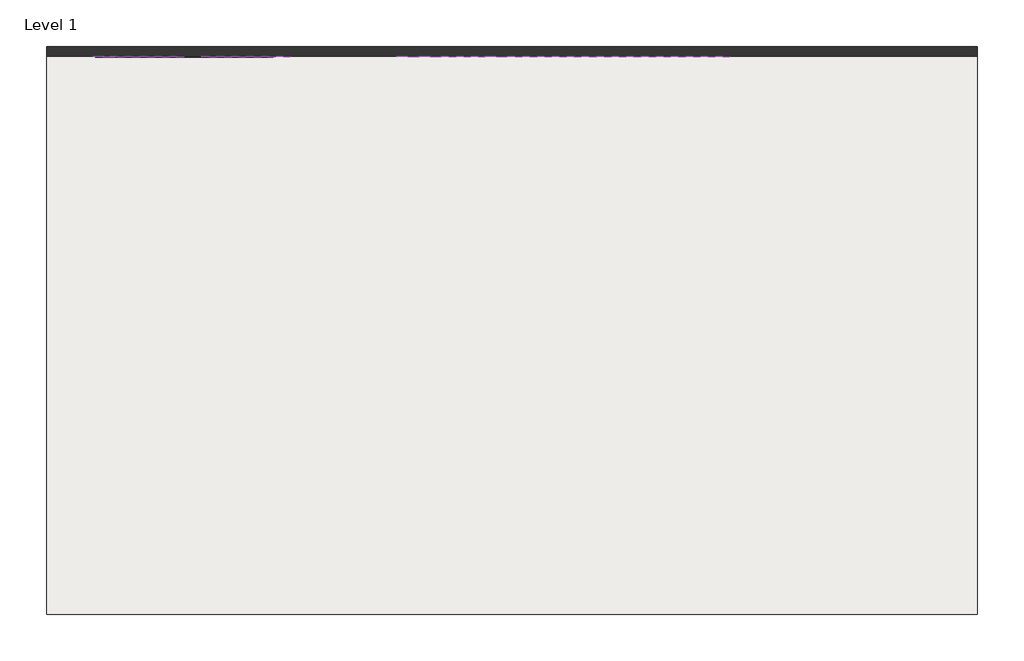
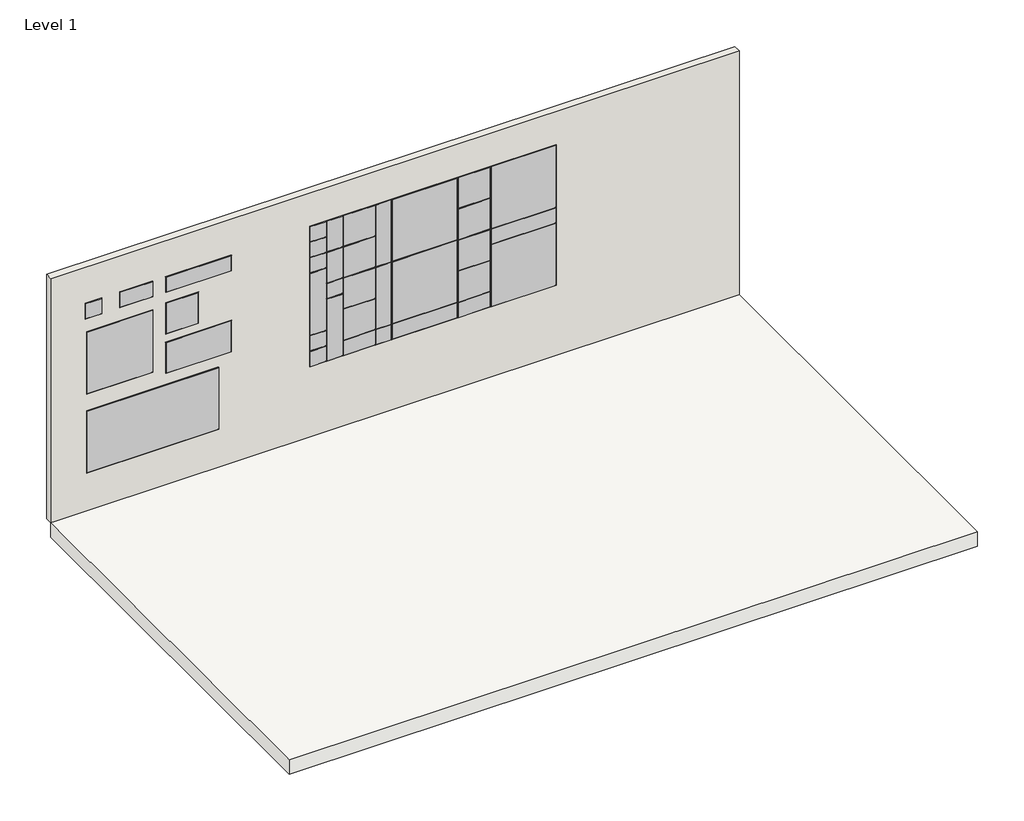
# One storey: 36 proxies, 1 slab, 1 wall.
"""IFC4 building model written with IfcOpenShell, lengths in millimetres."""

import ifcopenshell
import ifcopenshell.guid

model = None  # the IFC model being written
_history = None  # IfcOwnerHistory: only IFC2X3 demands one
_inside = {}  # id of a spatial element -> (the spatial element, [elements in it])
_under = {}  # id of a project, library or spatial element -> (it, [spatial elements below it])
_declared = {}  # id of a project -> (the project, [libraries it declares])
_typed = {}  # id of a type object -> (the type object, [elements of that type])
_made_of = {}  # id of a material, layer set ... -> (it, [elements and type objects made of it])


def new_model(schema):
    """Start an empty IFC model of exactly this schema.

    Asked for "IFC4X3", IfcOpenShell would pick the latest addendum, in which some entities
    have other attributes; the version numbers below select the first issue.
    IFC2X3 requires an IfcOwnerHistory on every rooted entity: one is made here for all.
    """
    global model, _history
    if schema == "IFC4X3":
        model = ifcopenshell.file(schema_version=(4, 3, 0, 0))
    else:
        model = ifcopenshell.file(schema=schema)
    _inside.clear()
    _under.clear()
    _declared.clear()
    _typed.clear()
    _made_of.clear()
    _history = None
    if model.schema == "IFC2X3":
        org = make("IfcOrganization", Name="unknown")
        user = make(
            "IfcPersonAndOrganization",
            ThePerson=make("IfcPerson", FamilyName="unknown"),
            TheOrganization=org,
        )
        app = make(
            "IfcApplication",
            ApplicationDeveloper=org,
            Version="unknown",
            ApplicationFullName="unknown",
            ApplicationIdentifier="unknown",
        )
        _history = make(
            "IfcOwnerHistory",
            OwningUser=user,
            OwningApplication=app,
            ChangeAction="ADDED",
            CreationDate=0,
        )
    return model


def make(cls, **values):
    """One entity of the class cls with the attributes given. An attribute that is None is left unset."""
    return model.create_entity(
        cls, **{name: value for name, value in values.items() if value is not None}
    )


def rooted(cls, **values):
    """An entity with a GlobalId (a new one), such as an element, a storey or a relation."""
    return make(cls, GlobalId=ifcopenshell.guid.new(), OwnerHistory=_history, **values)


def si_unit(unit_type, name, prefix=None):
    """IfcSIUnit, for example si_unit("LENGTHUNIT", "METRE", prefix="MILLI")."""
    return make("IfcSIUnit", UnitType=unit_type, Prefix=prefix, Name=name)


def assignment(units):
    """IfcUnitAssignment: the units of a project."""
    return None if units is None else make("IfcUnitAssignment", Units=units)


def point(xyz):
    """IfcCartesianPoint."""
    return None if xyz is None else make("IfcCartesianPoint", Coordinates=xyz)


def direction(xyz):
    """IfcDirection."""
    return None if xyz is None else make("IfcDirection", DirectionRatios=xyz)


def frame(location, z_axis=None, x_axis=None):
    """IfcAxis2Placement3D, a coordinate frame: its origin and axes. An axis left out is left unset."""
    return make(
        "IfcAxis2Placement3D",
        Location=point(location),
        Axis=direction(z_axis),
        RefDirection=direction(x_axis),
    )


def origin():
    """The frame at (0, 0, 0) with its axes left unset."""
    return frame((0.0, 0.0, 0.0))


def origin_with_axes():
    """The frame at (0, 0, 0) with the z axis (0, 0, 1) and the x axis (1, 0, 0) written out."""
    return frame((0.0, 0.0, 0.0), z_axis=(0.0, 0.0, 1.0), x_axis=(1.0, 0.0, 0.0))


def place(relative_to, where):
    """IfcLocalPlacement: puts the frame where relative to a parent placement (None: the world)."""
    return make(
        "IfcLocalPlacement", PlacementRelTo=relative_to, RelativePlacement=where
    )


def context(
    kind, dimensions, precision=None, world=None, true_north=None, identifier=None
):
    """IfcGeometricRepresentationContext, for example the 3D "Model" context."""
    return make(
        "IfcGeometricRepresentationContext",
        ContextIdentifier=identifier,
        ContextType=kind,
        CoordinateSpaceDimension=dimensions,
        Precision=precision,
        WorldCoordinateSystem=world,
        TrueNorth=true_north,
    )


def project(units=None, contexts=None):
    """IfcProject with its units and contexts."""
    return rooted(
        "IfcProject",
        Name="project",
        RepresentationContexts=contexts,
        UnitsInContext=assignment(units),
    )


def spatial(cls, under=None, at=None, **own):
    """A site, building, storey or space (cls), placed at a placement, below another one or the project."""
    s = rooted(cls, ObjectPlacement=at, **own)
    if under is not None:
        _under.setdefault(under.id(), (under, []))[1].append(s)
    return s


def polyline(points):
    """IfcPolyline through the points."""
    return make("IfcPolyline", Points=[point(p) for p in points])


def outline(outer, holes=None, kind="AREA"):
    """IfcArbitraryClosedProfileDef: a profile drawn as a closed curve; with holes, ...WithVoids."""
    if holes is None:
        return make("IfcArbitraryClosedProfileDef", ProfileType=kind, OuterCurve=outer)
    return make(
        "IfcArbitraryProfileDefWithVoids",
        ProfileType=kind,
        OuterCurve=outer,
        InnerCurves=holes,
    )


def extrude(swept, where, along, depth):
    """IfcExtrudedAreaSolid: the profile swept, set in the frame where, extruded along a direction by depth."""
    return make(
        "IfcExtrudedAreaSolid",
        SweptArea=swept,
        Position=where,
        ExtrudedDirection=direction(along),
        Depth=depth,
    )


def faces_of(points, faces, orient=None, outer=None):
    """IfcFace entities. A face is a list of loops; a loop is a list of indices into points, from 0.

    orient and outer hold one flag for each loop. By default every Orientation is true, the
    first loop of a face is its IfcFaceOuterBound and the others are IfcFaceBound.
    """
    made = []
    for i, loops in enumerate(faces):
        bounds = []
        for j, loop in enumerate(loops):
            is_outer = j == 0 if outer is None else outer[i][j]
            bounds.append(
                make(
                    "IfcFaceOuterBound" if is_outer else "IfcFaceBound",
                    Bound=make("IfcPolyLoop", Polygon=[points[k] for k in loop]),
                    Orientation=True if orient is None else orient[i][j],
                )
            )
        made.append(make("IfcFace", Bounds=bounds))
    return made


def faceted_brep(points, faces, orient=None, outer=None, voids=None):
    """IfcFacetedBrep: a solid bounded by flat faces; with voids (closed shells), ...WithVoids."""
    shared = [point(p) for p in points]
    hull = make("IfcClosedShell", CfsFaces=faces_of(shared, faces, orient, outer))
    if voids is None:
        return make("IfcFacetedBrep", Outer=hull)
    return make(
        "IfcFacetedBrepWithVoids",
        Outer=hull,
        Voids=[
            make(cls, CfsFaces=faces_of(shared, fs, o, b)) for cls, fs, o, b in voids
        ],
    )


def shape(context_of_items, identifier, shape_type, items):
    """IfcShapeRepresentation: the items that make up one representation, for example the "Body"."""
    return make(
        "IfcShapeRepresentation",
        ContextOfItems=context_of_items,
        RepresentationIdentifier=identifier,
        RepresentationType=shape_type,
        Items=items,
    )


def source(mapping_origin, context_of_items, identifier, shape_type, items):
    """IfcRepresentationMap: a shape defined once, which mapped items show again and again."""
    return make(
        "IfcRepresentationMap",
        MappingOrigin=mapping_origin,
        MappedRepresentation=shape(context_of_items, identifier, shape_type, items),
    )


def transform(
    local_origin,
    x_axis=None,
    y_axis=None,
    z_axis=None,
    scale=None,
    scale2=None,
    scale3=None,
    uniform=True,
):
    """IfcCartesianTransformationOperator3D, or its non-uniform kind. x_axis, y_axis, z_axis: its Axis1, 2, 3."""
    if uniform:
        return make(
            "IfcCartesianTransformationOperator3D",
            Axis1=direction(x_axis),
            Axis2=direction(y_axis),
            LocalOrigin=point(local_origin),
            Scale=scale,
            Axis3=direction(z_axis),
        )
    return make(
        "IfcCartesianTransformationOperator3DnonUniform",
        Axis1=direction(x_axis),
        Axis2=direction(y_axis),
        LocalOrigin=point(local_origin),
        Scale=scale,
        Axis3=direction(z_axis),
        Scale2=scale2,
        Scale3=scale3,
    )


def mapped(mapping_source, mapping_target):
    """IfcMappedItem: shows the shape of a source again, moved by a transform."""
    return make(
        "IfcMappedItem", MappingSource=mapping_source, MappingTarget=mapping_target
    )


def made_of(thing, what):
    """Note that an element or type object is made of a material, layer set ...; save() writes the relation."""
    if what is not None:
        _made_of.setdefault(what.id(), (what, []))[1].append(thing)
    return thing


def element(
    cls,
    number,
    at=None,
    inside=None,
    cuts=None,
    type_object=None,
    material=None,
    context=None,
    identifier="Body",
    shape_type=None,
    held_by="IfcProductDefinitionShape",
    body=None,
    shapes=None,
    **own,
):
    """One element of the class cls, such as IfcWall. Its Tag is "e" and its number.

    at: its placement. inside: the storey or other place that contains it. cuts: it is an
    opening in that element (IfcRelVoidsElement). A single representation is given by context,
    identifier, shape_type and body (its items); several are given by shapes. held_by: the class
    of the entity that holds the representations. save() writes the other relations.
    """
    e = rooted(cls, Tag="e%d" % number, ObjectPlacement=at, **own)
    if body is not None:
        shapes = [shape(context, identifier, shape_type, body)]
    if shapes is not None:
        e.Representation = make(held_by, Representations=shapes)
    if inside is not None:
        _inside.setdefault(inside.id(), (inside, []))[1].append(e)
    if cuts is not None:
        rooted(
            "IfcRelVoidsElement", RelatingBuildingElement=cuts, RelatedOpeningElement=e
        )
    if type_object is not None:
        _typed.setdefault(type_object.id(), (type_object, []))[1].append(e)
    return made_of(e, material)


def aggregate(whole, parts):
    """IfcRelAggregates: a whole, such as a stair, and the parts it consists of."""
    return rooted("IfcRelAggregates", RelatingObject=whole, RelatedObjects=parts)


def save(model, path):
    """Write the relations noted so far, then the file.

    IfcRelAggregates (storeys below a building ...), IfcRelContainedInSpatialStructure (elements
    in a storey), IfcRelDefinesByType, IfcRelAssociatesMaterial and IfcRelDeclares: one each for
    every whole, place, type object, material and project.
    """
    for whole, parts in _under.values():
        aggregate(whole, parts)
    for where, things in _inside.values():
        rooted(
            "IfcRelContainedInSpatialStructure",
            RelatedElements=things,
            RelatingStructure=where,
        )
    for kind, things in _typed.values():
        rooted("IfcRelDefinesByType", RelatedObjects=things, RelatingType=kind)
    for what, things in _made_of.values():
        rooted("IfcRelAssociatesMaterial", RelatedObjects=things, RelatingMaterial=what)
    for by, libraries in _declared.values():
        rooted("IfcRelDeclares", RelatingContext=by, RelatedDefinitions=libraries)
    model.write(path)


def proxy_bc3ac1bf(model_context):
    return source(origin(), model_context, "Body", "Brep", [
        faceted_brep([(699.3445313, -140.5445313, 12.0054687), (699.3445313, 140.5445312, 12.0054687), (418.2554688, 140.5445312, 12.0054687), (418.2554688, -140.5445313, 12.0054687), (704.85, 146.05, 0.0), (704.85, -146.05, 0.0), (412.75, -146.05, 0.0), (412.75, 146.05, 0.0), (412.75, 146.05, 6.5), (704.85, 146.05, 6.5), (412.75, -146.05, 6.5), (704.85, -146.05, 6.5)], [[[0, 1, 2, 3]], [[4, 5, 6, 7]], [[4, 7, 8, 9]], [[7, 6, 10, 8]], [[6, 5, 11, 10]], [[5, 4, 9, 11]], [[9, 1, 0, 11]], [[1, 9, 8, 2]], [[2, 8, 10, 3]], [[11, 0, 3, 10]]]),
    ])


def proxy_3ab9ab72(model_context):
    return source(origin(), model_context, "Body", "Brep", [
        faceted_brep([(699.3445313, 140.5445313, 12.0054687), (418.2554688, 140.5445313, 12.0054687), (418.2554688, -140.5445312, 12.0054687), (699.3445313, -140.5445312, 12.0054687), (704.85, -146.05, 0.0), (412.75, -146.05, 0.0), (412.75, 146.05, 0.0), (704.85, 146.05, 0.0), (704.85, -146.05, 6.5), (412.75, -146.05, 6.5), (412.75, 146.05, 6.5), (704.85, 146.05, 6.5)], [[[0, 1, 2, 3]], [[4, 5, 6, 7]], [[4, 8, 9, 5]], [[5, 9, 10, 6]], [[6, 10, 11, 7]], [[7, 11, 8, 4]], [[8, 11, 0, 3]], [[3, 2, 9, 8]], [[2, 1, 10, 9]], [[11, 10, 1, 0]]]),
    ])


def proxy_581fb320(model_context):
    return source(origin(), model_context, "Body", "Brep", [
        faceted_brep([(845.3945313, -140.5445313, 12.0054687), (845.3945313, 140.5445312, 12.0054687), (272.2054688, 140.5445312, 12.0054687), (272.2054688, -140.5445313, 12.0054687), (850.9, 146.05, 0.0), (850.9, -146.05, 0.0), (266.7, -146.05, 0.0), (266.7, 146.05, 0.0), (266.7, 146.05, 6.5), (850.9, 146.05, 6.5), (266.7, -146.05, 6.5), (850.9, -146.05, 6.5)], [[[0, 1, 2, 3]], [[4, 5, 6, 7]], [[4, 7, 8, 9]], [[7, 6, 10, 8]], [[6, 5, 11, 10]], [[5, 4, 9, 11]], [[9, 1, 0, 11]], [[1, 9, 8, 2]], [[2, 8, 10, 3]], [[11, 0, 3, 10]]]),
    ])


def proxy_46f4f60e(model_context):
    return source(origin(), model_context, "Body", "Brep", [
        faceted_brep([(845.3945313, 140.5445313, 12.0054687), (272.2054688, 140.5445313, 12.0054687), (272.2054688, -140.5445312, 12.0054687), (845.3945313, -140.5445312, 12.0054687), (850.9, -146.05, 0.0), (266.7, -146.05, 0.0), (266.7, 146.05, 0.0), (850.9, 146.05, 0.0), (850.9, -146.05, 6.5), (266.7, -146.05, 6.5), (266.7, 146.05, 6.5), (850.9, 146.05, 6.5)], [[[0, 1, 2, 3]], [[4, 5, 6, 7]], [[4, 8, 9, 5]], [[5, 9, 10, 6]], [[6, 10, 11, 7]], [[7, 11, 8, 4]], [[8, 11, 0, 3]], [[3, 2, 9, 8]], [[2, 1, 10, 9]], [[11, 10, 1, 0]]]),
    ])


def proxy_c236b629(model_context):
    return source(origin(), model_context, "Body", "Brep", [
        faceted_brep([(1137.4945313, -140.5445313, 12.0054687), (1137.4945313, 140.5445312, 12.0054687), (-19.8945312, 140.5445312, 12.0054687), (-19.8945312, -140.5445313, 12.0054687), (1143.0, 146.05, 0.0), (1143.0, -146.05, 0.0), (-25.4, -146.05, 0.0), (-25.4, 146.05, 0.0), (-25.4, 146.05, 6.5), (1143.0, 146.05, 6.5), (-25.4, -146.05, 6.5), (1143.0, -146.05, 6.5)], [[[0, 1, 2, 3]], [[4, 5, 6, 7]], [[4, 7, 8, 9]], [[7, 6, 10, 8]], [[6, 5, 11, 10]], [[5, 4, 9, 11]], [[9, 1, 0, 11]], [[1, 9, 8, 2]], [[2, 8, 10, 3]], [[11, 0, 3, 10]]]),
    ])


def proxy_cbdc0e8b(model_context):
    return source(origin(), model_context, "Body", "Brep", [
        faceted_brep([(845.3945313, -286.5945313, 12.0054687), (845.3945313, 286.5945312, 12.0054687), (272.2054688, 286.5945312, 12.0054687), (272.2054688, -286.5945313, 12.0054687), (850.9, 292.1, 0.0), (850.9, -292.1, 0.0), (266.7, -292.1, 0.0), (266.7, 292.1, 0.0), (266.7, 292.1, 6.5), (850.9, 292.1, 6.5), (266.7, -292.1, 6.5), (850.9, -292.1, 6.5)], [[[0, 1, 2, 3]], [[4, 5, 6, 7]], [[4, 7, 8, 9]], [[7, 6, 10, 8]], [[6, 5, 11, 10]], [[5, 4, 9, 11]], [[9, 1, 0, 11]], [[1, 9, 8, 2]], [[2, 8, 10, 3]], [[11, 0, 3, 10]]]),
    ])


def proxy_e55ecfb7(model_context):
    return source(origin(), model_context, "Body", "Brep", [
        faceted_brep([(845.3945313, 286.5945313, 12.0054687), (272.2054688, 286.5945313, 12.0054687), (272.2054688, -286.5945312, 12.0054687), (845.3945313, -286.5945312, 12.0054687), (850.9, -292.1, 0.0), (266.7, -292.1, 0.0), (266.7, 292.1, 0.0), (850.9, 292.1, 0.0), (850.9, -292.1, 6.5), (266.7, -292.1, 6.5), (266.7, 292.1, 6.5), (850.9, 292.1, 6.5)], [[[0, 1, 2, 3]], [[4, 5, 6, 7]], [[4, 8, 9, 5]], [[5, 9, 10, 6]], [[6, 10, 11, 7]], [[7, 11, 8, 4]], [[8, 11, 0, 3]], [[3, 2, 9, 8]], [[2, 1, 10, 9]], [[11, 10, 1, 0]]]),
    ])


def proxy_a09970d3(model_context):
    return source(origin(), model_context, "Body", "Brep", [
        faceted_brep([(1137.4945313, -286.5945313, 12.0054687), (1137.4945313, 286.5945312, 12.0054687), (-19.8945312, 286.5945312, 12.0054687), (-19.8945312, -286.5945313, 12.0054687), (1143.0, 292.1, 0.0), (1143.0, -292.1, 0.0), (-25.4, -292.1, 0.0), (-25.4, 292.1, 0.0), (-25.4, 292.1, 6.5), (1143.0, 292.1, 6.5), (-25.4, -292.1, 6.5), (1143.0, -292.1, 6.5)], [[[0, 1, 2, 3]], [[4, 5, 6, 7]], [[4, 7, 8, 9]], [[7, 6, 10, 8]], [[6, 5, 11, 10]], [[5, 4, 9, 11]], [[9, 1, 0, 11]], [[1, 9, 8, 2]], [[2, 8, 10, 3]], [[11, 0, 3, 10]]]),
    ])


def proxy_4511d3c0(model_context):
    return source(origin(), model_context, "Body", "Brep", [
        faceted_brep([(1137.4945313, -578.6945313, 12.0054687), (1137.4945313, 578.6945312, 12.0054687), (-19.8945312, 578.6945312, 12.0054687), (-19.8945312, -578.6945313, 12.0054687), (1143.0, 584.2, 0.0), (1143.0, -584.2, 0.0), (-25.4, -584.2, 0.0), (-25.4, 584.2, 0.0), (-25.4, 584.2, 6.5), (1143.0, 584.2, 6.5), (-25.4, -584.2, 6.5), (1143.0, -584.2, 6.5)], [[[0, 1, 2, 3]], [[4, 5, 6, 7]], [[4, 7, 8, 9]], [[7, 6, 10, 8]], [[6, 5, 11, 10]], [[5, 4, 9, 11]], [[9, 1, 0, 11]], [[1, 9, 8, 2]], [[2, 8, 10, 3]], [[11, 0, 3, 10]]]),
    ])


def proxy_51484835(model_context):
    return source(origin(), model_context, "Body", "Brep", [
        faceted_brep([(1137.4945313, 578.6945313, 12.0054687), (-19.8945312, 578.6945313, 12.0054687), (-19.8945312, -578.6945312, 12.0054687), (1137.4945313, -578.6945312, 12.0054687), (1143.0, -584.2, 0.0), (-25.4, -584.2, 0.0), (-25.4, 584.2, 0.0), (1143.0, 584.2, 0.0), (1143.0, -584.2, 6.5), (-25.4, -584.2, 6.5), (-25.4, 584.2, 6.5), (1143.0, 584.2, 6.5)], [[[0, 1, 2, 3]], [[4, 5, 6, 7]], [[4, 8, 9, 5]], [[5, 9, 10, 6]], [[6, 10, 11, 7]], [[7, 11, 8, 4]], [[8, 11, 0, 3]], [[3, 2, 9, 8]], [[2, 1, 10, 9]], [[11, 10, 1, 0]]]),
    ])


def proxy_796f25b3(model_context):
    return source(origin(), model_context, "Body", "Brep", [
        faceted_brep([(1721.6945313, -578.6945313, 12.0054687), (1721.6945313, 578.6945312, 12.0054687), (-604.0945312, 578.6945312, 12.0054687), (-604.0945312, -578.6945313, 12.0054687), (1727.2, 584.2, 0.0), (1727.2, -584.2, 0.0), (-609.6, -584.2, 0.0), (-609.6, 584.2, 0.0), (-609.6, 584.2, 6.5), (1727.2, 584.2, 6.5), (-609.6, -584.2, 6.5), (1727.2, -584.2, 6.5)], [[[0, 1, 2, 3]], [[4, 5, 6, 7]], [[4, 7, 8, 9]], [[7, 6, 10, 8]], [[6, 5, 11, 10]], [[5, 4, 9, 11]], [[9, 1, 0, 11]], [[1, 9, 8, 2]], [[2, 8, 10, 3]], [[11, 0, 3, 10]]]),
    ])


model = new_model("IFC4")

# Units and contexts
model_context = context("Model", 3, world=origin())
ifc_project = project(units=[si_unit("LENGTHUNIT", "METRE", prefix="MILLI")], contexts=[model_context])

# Site, building, storey
site = spatial("IfcSite", under=ifc_project)
building = spatial("IfcBuilding", under=site)
storey = spatial("IfcBuildingStorey", under=building, Name="Level 1", Elevation=0.0)

# Proxies
placement = place(None, origin())
proxy_shape = proxy_bc3ac1bf(model_context)
element("IfcBuildingElementProxy", 1, Name="Wall-Panel-Kirei-EchoPanel-Echotile_Sync : 11.5\" x 11.5\" Tile", ObjectType="Wall-Panel-Kirei-EchoPanel-Echotile_Sync : 11.5\" x 11.5\" Tile", at=placement, inside=storey, context=model_context, shape_type="MappedRepresentation", body=[
    mapped(proxy_shape, transform((-9937.9972578, 6040.5236992, 3192.5320415), x_axis=(0.0, 0.0, 1.0), y_axis=(-1.0, 0.0, 0.0), z_axis=(0.0, -1.0, 0.0))),
])
element("IfcBuildingElementProxy", 2, Name="Wall-Panel-Kirei-EchoPanel-Echotile_Sync : 11.5\" x 11.5\" Tile", ObjectType="Wall-Panel-Kirei-EchoPanel-Echotile_Sync : 11.5\" x 11.5\" Tile", at=placement, inside=storey, context=model_context, shape_type="MappedRepresentation", body=[
    mapped(proxy_shape, transform((-6521.6972578, 6040.5236992, 3802.1320416), x_axis=(1.0, 0.0, 0.0), y_axis=(0.0, 0.0, 1.0), z_axis=(0.0, -1.0, 0.0))),
])
element("IfcBuildingElementProxy", 3, Name="Wall-Panel-Kirei-EchoPanel-Echotile_Sync : 11.5\" x 11.5\" Tile", ObjectType="Wall-Panel-Kirei-EchoPanel-Echotile_Sync : 11.5\" x 11.5\" Tile", at=placement, inside=storey, context=model_context, shape_type="MappedRepresentation", body=[
    mapped(proxy_shape, transform((-6521.6972578, 6040.5236992, 3510.0320416), x_axis=(1.0, 0.0, 0.0), y_axis=(0.0, 0.0, 1.0), z_axis=(0.0, -1.0, 0.0))),
])
element("IfcBuildingElementProxy", 4, Name="Wall-Panel-Kirei-EchoPanel-Echotile_Sync : 11.5\" x 11.5\" Tile", ObjectType="Wall-Panel-Kirei-EchoPanel-Echotile_Sync : 11.5\" x 11.5\" Tile", at=placement, inside=storey, context=model_context, shape_type="MappedRepresentation", body=[
    mapped(proxy_shape, transform((-6521.6972578, 6040.5236992, 1757.4320416), x_axis=(1.0, 0.0, 0.0), y_axis=(0.0, 0.0, 1.0), z_axis=(0.0, -1.0, 0.0))),
])
element("IfcBuildingElementProxy", 5, Name="Wall-Panel-Kirei-EchoPanel-Echotile_Sync : 11.5\" x 11.5\" Tile", ObjectType="Wall-Panel-Kirei-EchoPanel-Echotile_Sync : 11.5\" x 11.5\" Tile", at=placement, inside=storey, context=model_context, shape_type="MappedRepresentation", body=[
    mapped(proxy_shape, transform((-6521.6972578, 6040.5236992, 1465.3320416), x_axis=(1.0, 0.0, 0.0), y_axis=(0.0, 0.0, 1.0), z_axis=(0.0, -1.0, 0.0))),
])
element("IfcBuildingElementProxy", 6, Name="Wall-Panel-Kirei-EchoPanel-Echotile_Sync : 11.5\" x 11.5\" Tile", ObjectType="Wall-Panel-Kirei-EchoPanel-Echotile_Sync : 11.5\" x 11.5\" Tile", at=placement, inside=storey, context=model_context, shape_type="MappedRepresentation", body=[
    mapped(proxy_shape, transform((-6229.5972578, 6040.5236992, 2633.7320416), x_axis=(1.0, 0.0, 0.0), y_axis=(0.0, 0.0, 1.0), z_axis=(0.0, -1.0, 0.0))),
])
element("IfcBuildingElementProxy", 7, Name="Wall-Panel-Kirei-EchoPanel-Echotile_Sync : 11.5\" x 11.5\" Tile", ObjectType="Wall-Panel-Kirei-EchoPanel-Echotile_Sync : 11.5\" x 11.5\" Tile", at=placement, inside=storey, context=model_context, shape_type="MappedRepresentation", body=[
    mapped(proxy_shape, transform((-5364.3081953, 6040.5236992, 1465.3320416), x_axis=(1.0, 0.0, 0.0), y_axis=(0.0, 0.0, 1.0), z_axis=(0.0, -1.0, 0.0))),
])
proxy_2_shape = proxy_3ab9ab72(model_context)
element("IfcBuildingElementProxy", 8, Name="Wall-Panel-Kirei-EchoPanel-Echotile_Sync : 11.5\" x 11.5\" Tile", ObjectType="Wall-Panel-Kirei-EchoPanel-Echotile_Sync : 11.5\" x 11.5\" Tile", at=placement, inside=storey, context=model_context, shape_type="MappedRepresentation", body=[
    mapped(proxy_2_shape, transform((-6521.6972578, 6040.5236992, 3217.9320416), x_axis=(1.0, 0.0, 0.0), y_axis=(0.0, 0.0, 1.0), z_axis=(0.0, -1.0, 0.0))),
])
proxy_3_shape = proxy_581fb320(model_context)
element("IfcBuildingElementProxy", 9, Name="Wall-Panel-Kirei-EchoPanel-Echotile_Sync : 11.5\" x 23\" Tile", ObjectType="Wall-Panel-Kirei-EchoPanel-Echotile_Sync : 11.5\" x 23\" Tile", at=placement, inside=storey, context=model_context, shape_type="MappedRepresentation", body=[
    mapped(proxy_3_shape, transform((-8623.5472578, 6040.5236992, 3751.3320415), x_axis=(-1.0, 0.0, 0.0), y_axis=(0.0, 0.0, -1.0), z_axis=(0.0, -1.0, 0.0))),
])
proxy_4_shape = proxy_46f4f60e(model_context)
element("IfcBuildingElementProxy", 10, Name="Wall-Panel-Kirei-EchoPanel-Echotile_Sync : 11.5\" x 23\" Tile", ObjectType="Wall-Panel-Kirei-EchoPanel-Echotile_Sync : 11.5\" x 23\" Tile", at=placement, inside=storey, context=model_context, shape_type="MappedRepresentation", body=[
    mapped(proxy_4_shape, transform((-5670.7972578, 6040.5236992, 4214.8820416), x_axis=(0.0, 0.0, -1.0), y_axis=(1.0, 0.0, 0.0), z_axis=(0.0, -1.0, 0.0))),
])
element("IfcBuildingElementProxy", 11, Name="Wall-Panel-Kirei-EchoPanel-Echotile_Sync : 11.5\" x 23\" Tile", ObjectType="Wall-Panel-Kirei-EchoPanel-Echotile_Sync : 11.5\" x 23\" Tile", at=placement, inside=storey, context=model_context, shape_type="MappedRepresentation", body=[
    mapped(proxy_3_shape, transform((-5670.7972578, 6040.5236992, 2513.0820416), x_axis=(0.0, 0.0, 1.0), y_axis=(-1.0, 0.0, 0.0), z_axis=(0.0, -1.0, 0.0))),
])
element("IfcBuildingElementProxy", 12, Name="Wall-Panel-Kirei-EchoPanel-Echotile_Sync : 11.5\" x 23\" Tile", ObjectType="Wall-Panel-Kirei-EchoPanel-Echotile_Sync : 11.5\" x 23\" Tile", at=placement, inside=storey, context=model_context, shape_type="MappedRepresentation", body=[
    mapped(proxy_3_shape, transform((-5791.4472578, 6040.5236992, 1465.3320416), x_axis=(1.0, 0.0, 0.0), y_axis=(0.0, 0.0, 1.0), z_axis=(0.0, -1.0, 0.0))),
])
element("IfcBuildingElementProxy", 13, Name="Wall-Panel-Kirei-EchoPanel-Echotile_Sync : 11.5\" x 23\" Tile", ObjectType="Wall-Panel-Kirei-EchoPanel-Echotile_Sync : 11.5\" x 23\" Tile", at=placement, inside=storey, context=model_context, shape_type="MappedRepresentation", body=[
    mapped(proxy_3_shape, transform((-3757.7581953, 6040.5236992, 1465.3320416), x_axis=(1.0, 0.0, 0.0), y_axis=(0.0, 0.0, 1.0), z_axis=(0.0, -1.0, 0.0))),
])
proxy_5_shape = proxy_c236b629(model_context)
element("IfcBuildingElementProxy", 14, Name="Wall-Panel-Kirei-EchoPanel-Echotile_Sync : 11.5\" x 46\" Tile", ObjectType="Wall-Panel-Kirei-EchoPanel-Echotile_Sync : 11.5\" x 46\" Tile", at=placement, inside=storey, context=model_context, shape_type="MappedRepresentation", body=[
    mapped(proxy_5_shape, transform((-8636.2472578, 6040.5236992, 3751.3320416), x_axis=(1.0, 0.0, 0.0), y_axis=(0.0, 0.0, 1.0), z_axis=(0.0, -1.0, 0.0))),
])
element("IfcBuildingElementProxy", 15, Name="Wall-Panel-Kirei-EchoPanel-Echotile_Sync : 11.5\" x 46\" Tile", ObjectType="Wall-Panel-Kirei-EchoPanel-Echotile_Sync : 11.5\" x 46\" Tile", at=placement, inside=storey, context=model_context, shape_type="MappedRepresentation", body=[
    mapped(proxy_5_shape, transform((-5962.8972578, 6040.5236992, 1928.8820416), x_axis=(0.0, 0.0, 1.0), y_axis=(-1.0, 0.0, 0.0), z_axis=(0.0, -1.0, 0.0))),
])
element("IfcBuildingElementProxy", 16, Name="Wall-Panel-Kirei-EchoPanel-Echotile_Sync : 11.5\" x 46\" Tile", ObjectType="Wall-Panel-Kirei-EchoPanel-Echotile_Sync : 11.5\" x 46\" Tile", at=placement, inside=storey, context=model_context, shape_type="MappedRepresentation", body=[
    mapped(proxy_5_shape, transform((-5670.7972578, 6040.5236992, 1344.6820416), x_axis=(0.0, 0.0, 1.0), y_axis=(-1.0, 0.0, 0.0), z_axis=(0.0, -1.0, 0.0))),
])
element("IfcBuildingElementProxy", 17, Name="Wall-Panel-Kirei-EchoPanel-Echotile_Sync : 11.5\" x 46\" Tile", ObjectType="Wall-Panel-Kirei-EchoPanel-Echotile_Sync : 11.5\" x 46\" Tile", at=placement, inside=storey, context=model_context, shape_type="MappedRepresentation", body=[
    mapped(proxy_5_shape, transform((-4805.5081953, 6040.5236992, 2805.1820416), x_axis=(0.0, 0.0, 1.0), y_axis=(-1.0, 0.0, 0.0), z_axis=(0.0, -1.0, 0.0))),
])
element("IfcBuildingElementProxy", 18, Name="Wall-Panel-Kirei-EchoPanel-Echotile_Sync : 11.5\" x 46\" Tile", ObjectType="Wall-Panel-Kirei-EchoPanel-Echotile_Sync : 11.5\" x 46\" Tile", at=placement, inside=storey, context=model_context, shape_type="MappedRepresentation", body=[
    mapped(proxy_5_shape, transform((-4805.5081953, 6040.5236992, 1636.7820416), x_axis=(0.0, 0.0, 1.0), y_axis=(-1.0, 0.0, 0.0), z_axis=(0.0, -1.0, 0.0))),
])
element("IfcBuildingElementProxy", 19, Name="Wall-Panel-Kirei-EchoPanel-Echotile_Sync : 11.5\" x 46\" Tile", ObjectType="Wall-Panel-Kirei-EchoPanel-Echotile_Sync : 11.5\" x 46\" Tile", at=placement, inside=storey, context=model_context, shape_type="MappedRepresentation", body=[
    mapped(proxy_5_shape, transform((-4634.0581953, 6040.5236992, 1465.3320416), x_axis=(1.0, 0.0, 0.0), y_axis=(0.0, 0.0, 1.0), z_axis=(0.0, -1.0, 0.0))),
])
element("IfcBuildingElementProxy", 20, Name="Wall-Panel-Kirei-EchoPanel-Echotile_Sync : 11.5\" x 46\" Tile", ObjectType="Wall-Panel-Kirei-EchoPanel-Echotile_Sync : 11.5\" x 46\" Tile", at=placement, inside=storey, context=model_context, shape_type="MappedRepresentation", body=[
    mapped(proxy_5_shape, transform((-2881.4581953, 6040.5236992, 2633.7320416), x_axis=(1.0, 0.0, 0.0), y_axis=(0.0, 0.0, 1.0), z_axis=(0.0, -1.0, 0.0))),
])
proxy_6_shape = proxy_cbdc0e8b(model_context)
element("IfcBuildingElementProxy", 21, Name="Wall-Panel-Kirei-EchoPanel-Echotile_Sync : 23\" x 23\" Tile", ObjectType="Wall-Panel-Kirei-EchoPanel-Echotile_Sync : 23\" x 23\" Tile", at=placement, inside=storey, context=model_context, shape_type="MappedRepresentation", body=[
    mapped(proxy_6_shape, transform((-8369.5472578, 6040.5236992, 2558.3765728), x_axis=(0.0, 0.0, 1.0), y_axis=(-1.0, 0.0, 0.0), z_axis=(0.0, -1.0, 0.0))),
])
element("IfcBuildingElementProxy", 22, Name="Wall-Panel-Kirei-EchoPanel-Echotile_Sync : 23\" x 23\" Tile", ObjectType="Wall-Panel-Kirei-EchoPanel-Echotile_Sync : 23\" x 23\" Tile", at=placement, inside=storey, context=model_context, shape_type="MappedRepresentation", body=[
    mapped(proxy_6_shape, transform((-5232.6472578, 6040.5236992, 4214.8820416), x_axis=(0.0, 0.0, -1.0), y_axis=(1.0, 0.0, 0.0), z_axis=(0.0, -1.0, 0.0))),
])
element("IfcBuildingElementProxy", 23, Name="Wall-Panel-Kirei-EchoPanel-Echotile_Sync : 23\" x 23\" Tile", ObjectType="Wall-Panel-Kirei-EchoPanel-Echotile_Sync : 23\" x 23\" Tile", at=placement, inside=storey, context=model_context, shape_type="MappedRepresentation", body=[
    mapped(proxy_6_shape, transform((-5232.6472578, 6040.5236992, 3046.4820416), x_axis=(0.0, 0.0, -1.0), y_axis=(1.0, 0.0, 0.0), z_axis=(0.0, -1.0, 0.0))),
])
element("IfcBuildingElementProxy", 24, Name="Wall-Panel-Kirei-EchoPanel-Echotile_Sync : 23\" x 23\" Tile", ObjectType="Wall-Panel-Kirei-EchoPanel-Echotile_Sync : 23\" x 23\" Tile", at=placement, inside=storey, context=model_context, shape_type="MappedRepresentation", body=[
    mapped(proxy_6_shape, transform((-3198.9581953, 6040.5236992, 4214.8820416), x_axis=(0.0, 0.0, -1.0), y_axis=(1.0, 0.0, 0.0), z_axis=(0.0, -1.0, 0.0))),
])
element("IfcBuildingElementProxy", 25, Name="Wall-Panel-Kirei-EchoPanel-Echotile_Sync : 23\" x 23\" Tile", ObjectType="Wall-Panel-Kirei-EchoPanel-Echotile_Sync : 23\" x 23\" Tile", at=placement, inside=storey, context=model_context, shape_type="MappedRepresentation", body=[
    mapped(proxy_6_shape, transform((-3198.9581953, 6040.5236992, 3046.4820416), x_axis=(0.0, 0.0, -1.0), y_axis=(1.0, 0.0, 0.0), z_axis=(0.0, -1.0, 0.0))),
])
proxy_7_shape = proxy_e55ecfb7(model_context)
element("IfcBuildingElementProxy", 26, Name="Wall-Panel-Kirei-EchoPanel-Echotile_Sync : 23\" x 23\" Tile", ObjectType="Wall-Panel-Kirei-EchoPanel-Echotile_Sync : 23\" x 23\" Tile", at=placement, inside=storey, context=model_context, shape_type="MappedRepresentation", body=[
    mapped(proxy_7_shape, transform((-5232.6472578, 6040.5236992, 2513.0820416), x_axis=(0.0, 0.0, 1.0), y_axis=(-1.0, 0.0, 0.0), z_axis=(0.0, -1.0, 0.0))),
])
element("IfcBuildingElementProxy", 27, Name="Wall-Panel-Kirei-EchoPanel-Echotile_Sync : 23\" x 23\" Tile", ObjectType="Wall-Panel-Kirei-EchoPanel-Echotile_Sync : 23\" x 23\" Tile", at=placement, inside=storey, context=model_context, shape_type="MappedRepresentation", body=[
    mapped(proxy_7_shape, transform((-5232.6472578, 6040.5236992, 1344.6820416), x_axis=(0.0, 0.0, 1.0), y_axis=(-1.0, 0.0, 0.0), z_axis=(0.0, -1.0, 0.0))),
])
element("IfcBuildingElementProxy", 28, Name="Wall-Panel-Kirei-EchoPanel-Echotile_Sync : 23\" x 23\" Tile", ObjectType="Wall-Panel-Kirei-EchoPanel-Echotile_Sync : 23\" x 23\" Tile", at=placement, inside=storey, context=model_context, shape_type="MappedRepresentation", body=[
    mapped(proxy_7_shape, transform((-3198.9581953, 6040.5236992, 2513.0820416), x_axis=(0.0, 0.0, 1.0), y_axis=(-1.0, 0.0, 0.0), z_axis=(0.0, -1.0, 0.0))),
])
element("IfcBuildingElementProxy", 29, Name="Wall-Panel-Kirei-EchoPanel-Echotile_Sync : 23\" x 23\" Tile", ObjectType="Wall-Panel-Kirei-EchoPanel-Echotile_Sync : 23\" x 23\" Tile", at=placement, inside=storey, context=model_context, shape_type="MappedRepresentation", body=[
    mapped(proxy_7_shape, transform((-3198.9581953, 6040.5236992, 1344.6820416), x_axis=(0.0, 0.0, 1.0), y_axis=(-1.0, 0.0, 0.0), z_axis=(0.0, -1.0, 0.0))),
])
proxy_8_shape = proxy_a09970d3(model_context)
element("IfcBuildingElementProxy", 30, Name="Wall-Panel-Kirei-EchoPanel-Echotile_Sync : 23\" x 46\" Tile", ObjectType="Wall-Panel-Kirei-EchoPanel-Echotile_Sync : 23\" x 46\" Tile", at=placement, inside=storey, context=model_context, shape_type="MappedRepresentation", body=[
    mapped(proxy_8_shape, transform((-8636.2472578, 6040.5236992, 2380.5765728), x_axis=(1.0, 0.0, 0.0), y_axis=(0.0, 0.0, 1.0), z_axis=(0.0, -1.0, 0.0))),
])
proxy_9_shape = proxy_4511d3c0(model_context)
element("IfcBuildingElementProxy", 31, Name="Wall-Panel-Kirei-EchoPanel-Echotile_Sync : 46\" x 46\" Tile", ObjectType="Wall-Panel-Kirei-EchoPanel-Echotile_Sync : 46\" x 46\" Tile", at=placement, inside=storey, context=model_context, shape_type="MappedRepresentation", body=[
    mapped(proxy_9_shape, transform((-8915.6472578, 6040.5236992, 2774.2765728), x_axis=(-1.0, 0.0, 0.0), y_axis=(0.0, 0.0, -1.0), z_axis=(0.0, -1.0, 0.0))),
])
proxy_10_shape = proxy_51484835(model_context)
element("IfcBuildingElementProxy", 32, Name="Wall-Panel-Kirei-EchoPanel-Echotile_Sync : 46\" x 46\" Tile", ObjectType="Wall-Panel-Kirei-EchoPanel-Echotile_Sync : 46\" x 46\" Tile", at=placement, inside=storey, context=model_context, shape_type="MappedRepresentation", body=[
    mapped(proxy_10_shape, transform((-4075.2581953, 6040.5236992, 2805.1820416), x_axis=(0.0, 0.0, 1.0), y_axis=(-1.0, 0.0, 0.0), z_axis=(0.0, -1.0, 0.0))),
])
element("IfcBuildingElementProxy", 33, Name="Wall-Panel-Kirei-EchoPanel-Echotile_Sync : 46\" x 46\" Tile", ObjectType="Wall-Panel-Kirei-EchoPanel-Echotile_Sync : 46\" x 46\" Tile", at=placement, inside=storey, context=model_context, shape_type="MappedRepresentation", body=[
    mapped(proxy_9_shape, transform((-4075.2581953, 6040.5236992, 2754.3820416), x_axis=(0.0, 0.0, -1.0), y_axis=(1.0, 0.0, 0.0), z_axis=(0.0, -1.0, 0.0))),
])
element("IfcBuildingElementProxy", 34, Name="Wall-Panel-Kirei-EchoPanel-Echotile_Sync : 46\" x 46\" Tile", ObjectType="Wall-Panel-Kirei-EchoPanel-Echotile_Sync : 46\" x 46\" Tile", at=placement, inside=storey, context=model_context, shape_type="MappedRepresentation", body=[
    mapped(proxy_10_shape, transform((-2322.6581953, 6040.5236992, 2805.1820416), x_axis=(0.0, 0.0, 1.0), y_axis=(-1.0, 0.0, 0.0), z_axis=(0.0, -1.0, 0.0))),
])
element("IfcBuildingElementProxy", 35, Name="Wall-Panel-Kirei-EchoPanel-Echotile_Sync : 46\" x 46\" Tile", ObjectType="Wall-Panel-Kirei-EchoPanel-Echotile_Sync : 46\" x 46\" Tile", at=placement, inside=storey, context=model_context, shape_type="MappedRepresentation", body=[
    mapped(proxy_9_shape, transform((-2322.6581953, 6040.5236992, 2462.2820416), x_axis=(0.0, 0.0, -1.0), y_axis=(1.0, 0.0, 0.0), z_axis=(0.0, -1.0, 0.0))),
])
proxy_11_shape = proxy_796f25b3(model_context)
element("IfcBuildingElementProxy", 36, Name="Wall-Panel-Kirei-EchoPanel-Echotile_Sync : 46\" x 92\" Tile", ObjectType="Wall-Panel-Kirei-EchoPanel-Echotile_Sync : 46\" x 92\" Tile", at=placement, inside=storey, context=model_context, shape_type="MappedRepresentation", body=[
    mapped(proxy_11_shape, transform((-8331.4472578, 6040.5236992, 1295.4), x_axis=(-1.0, 0.0, 0.0), y_axis=(0.0, 0.0, -1.0), z_axis=(0.0, -1.0, 0.0))),
])

# Slab
element("IfcSlab", 37, ObjectType="Wood Joist 10\" - Wood Finish", at=placement, inside=storey, context=model_context, shape_type="SweptSolid", body=[
    extrude(outline(polyline([(-10693.6472578, -1274.6763008), (-10693.6472578, 6040.5236992), (1498.3527422, 6040.5236992), (1498.3527422, -1274.6763008), (-10693.6472578, -1274.6763008)])), frame((0.0, 0.0, -273.05), z_axis=(0.0, 0.0, 1.0), x_axis=(1.0, 0.0, 0.0)), (0.0, 0.0, 1.0), 273.05),
])

# Wall
element("IfcWall", 38, ObjectType="Interior - 5\" Partition (2-hr)", at=placement, inside=storey, context=model_context, shape_type="SweptSolid", body=[
    extrude(outline(polyline([(1498.3527422, 6040.5236992), (-10693.6472578, 6040.5236992), (-10693.6472578, 6167.5236992), (1498.3527422, 6167.5236992), (1498.3527422, 6040.5236992)])), origin_with_axes(), (0.0, 0.0, 1.0), 4572.0),
])

save(model, "model.ifc")
